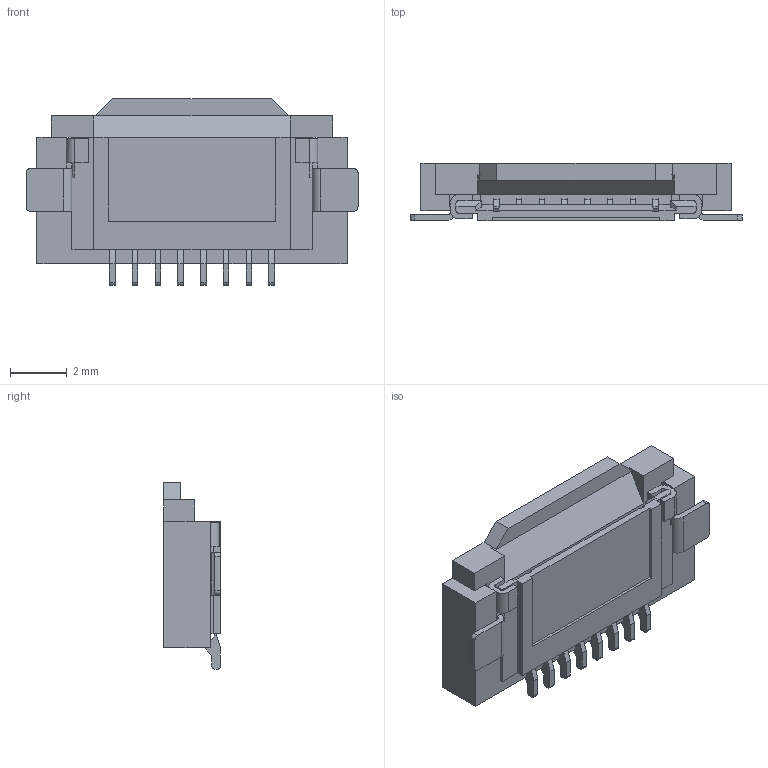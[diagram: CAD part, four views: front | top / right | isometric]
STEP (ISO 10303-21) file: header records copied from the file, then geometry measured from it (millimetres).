
FILE_DESCRIPTION((''),'2;1');
FILE_NAME('S-50519-012XX-XXX','2014-04-01T',('d17822'),(''),'PRO/ENGINEER BY PARAMETRIC TECHNOLOGY CORPORATION, 2007450','PRO/ENGINEER BY PARAMETRIC TECHNOLOGY CORPORATION, 2007450','');
FILE_SCHEMA(('CONFIG_CONTROL_DESIGN'));
Length unit declared in the file: millimetre
Products named in the file (1): S-50519-012XX-XXX
Bounding box: 11.67 x 2 x 6.55 mm (x, y, z)
Volume: 87.9 mm3; surface area: 267.4 mm2
Topology: 1 solids, 1 shells, 327 faces, 964 edges, 634 vertices
Faces by surface type: plane 255, cylinder 72
Entity records: 10876 total; most frequent: CARTESIAN_POINT 1967, ORIENTED_EDGE 1928, DIRECTION 1750, EDGE_CURVE 964, VECTOR 812, LINE 812, VERTEX_POINT 634, AXIS2_PLACEMENT_3D 469
